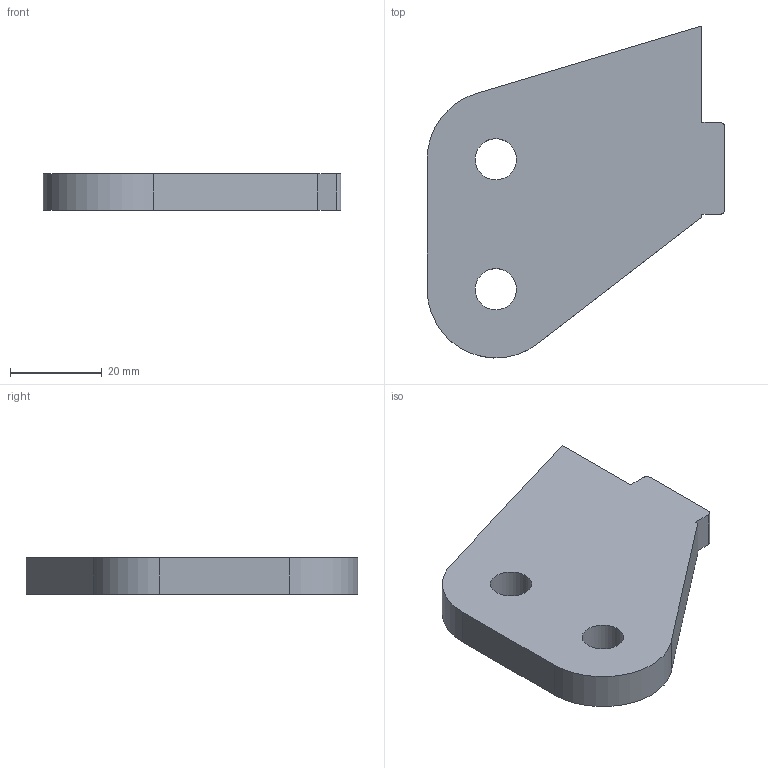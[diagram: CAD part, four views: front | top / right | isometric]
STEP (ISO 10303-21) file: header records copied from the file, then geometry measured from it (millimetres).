
FILE_DESCRIPTION(/* description */ (''),/* implementation_level */ '2;1');
FILE_NAME(/* name */ 'Pos158-Plaatwerk D= 8-S235JRG2-3st',/* time_stamp */ '2024-08-06T13:37:44+02:00',/* author */ (''),/* organization */ (''),/* preprocessor_version */ 'ST-DEVELOPER v16.5',/* originating_system */ 'HiCAD 2024 2901.2 Build 361',/* authorisation */ '');
FILE_SCHEMA (('AUTOMOTIVE_DESIGN { 1 0 10303 214 1 1 1 1 }'));
Length unit declared in the file: millimetre
Products named in the file (1): Pos158-Plaatwerk D= 8-S235JRG2-3st
Bounding box: 65 x 72.47 x 8 mm (x, y, z)
Volume: 24765.2 mm3; surface area: 8472.3 mm2
Topology: 1 solids, 1 shells, 16 faces, 44 edges, 30 vertices
Faces by surface type: plane 10, cylinder 6
Full cylindrical faces by diameter (mm): 9 x2
Entity records: 914 total; most frequent: DIRECTION 84, CARTESIAN_POINT 84, PRESENTATION_STYLE_ASSIGNMENT 81, COLOUR_RGB 81, DRAUGHTING_PRE_DEFINED_CURVE_FONT 80, CURVE_STYLE 80, OVER_RIDING_STYLED_ITEM 80, ORIENTED_EDGE 80
